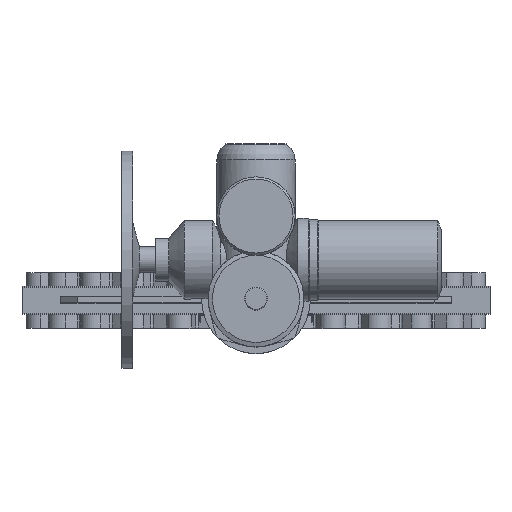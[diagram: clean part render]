
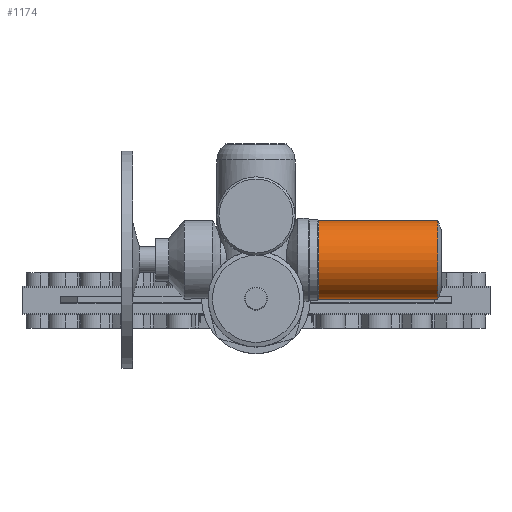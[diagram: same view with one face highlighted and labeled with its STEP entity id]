
A CAD part, top view. The second image highlights one B-rep face of the part: STEP entity #1174.
In plain terms, the highlighted cylindrical face has radius 90 mm (diameter 180 mm), a full revolution.
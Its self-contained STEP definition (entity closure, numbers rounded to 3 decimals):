
#1174=ADVANCED_FACE('',(#2354,#2356),#2358,.T.);
#2354=FACE_OUTER_BOUND('',#2355,.T.);
#2355=EDGE_LOOP('',(#6188));
#2356=FACE_OUTER_BOUND('',#2357,.T.);
#2357=EDGE_LOOP('',(#6189));
#2358=CYLINDRICAL_SURFACE('',#2359,90.);
#2359=AXIS2_PLACEMENT_3D('',#2360,#2361,#2362);
#2360=CARTESIAN_POINT('',(417.721,90.,2287.));
#2361=DIRECTION('',(-1.,0.,0.));
#2362=DIRECTION('',(0.,0.,1.));
#6188=ORIENTED_EDGE('',*,*,#9214,.T.);
#6189=ORIENTED_EDGE('',*,*,#9212,.F.);
#9212=EDGE_CURVE('',#11524,#11524,#11525,.T.);
#9214=EDGE_CURVE('',#11528,#11528,#11529,.T.);
#11524=VERTEX_POINT('',#14581);
#11525=CIRCLE('',#14582,90.);
#11528=VERTEX_POINT('',#14591);
#11529=CIRCLE('',#14592,90.);
#14581=CARTESIAN_POINT('',(143.811,90.,2377.));
#14582=AXIS2_PLACEMENT_3D('',#14583,#14584,#14585);
#14583=CARTESIAN_POINT('',(143.811,90.,2287.));
#14584=DIRECTION('',(-1.,0.,0.));
#14585=DIRECTION('',(0.,0.,1.));
#14591=CARTESIAN_POINT('',(417.721,90.,2377.));
#14592=AXIS2_PLACEMENT_3D('',#14593,#14594,#14595);
#14593=CARTESIAN_POINT('',(417.721,90.,2287.));
#14594=DIRECTION('',(-1.,0.,0.));
#14595=DIRECTION('',(0.,0.,1.));
